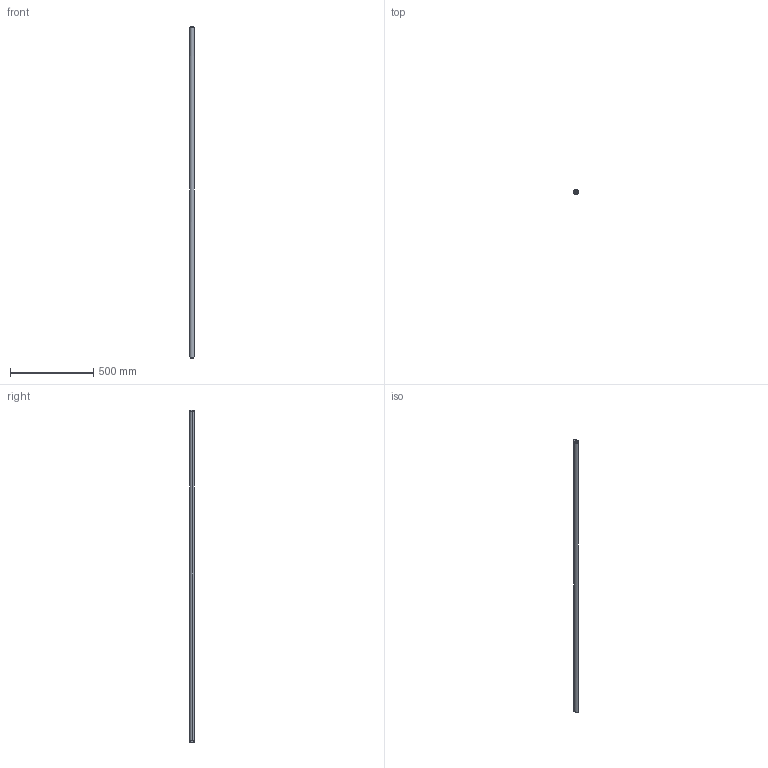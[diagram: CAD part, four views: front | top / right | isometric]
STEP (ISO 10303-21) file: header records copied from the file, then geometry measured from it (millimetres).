
FILE_DESCRIPTION (( 'STEP AP214' ), '1' );
FILE_NAME ('PL01-28x2000!1920.STEP', '2009-02-26T08:08:42', ( 'mittelholzer' ), ( '' ), 'SwSTEP 2.0', 'SolidWorks 2005037', '' );
FILE_SCHEMA (( 'AUTOMOTIVE_DESIGN' ));
Length unit declared in the file: millimetre
Products named in the file (1): PL01-28x2000!1920
Bounding box: 28 x 28 x 2000 mm (x, y, z)
Volume: 1228104.4 mm3; surface area: 177886 mm2
Topology: 1 solids, 1 shells, 41 faces, 104 edges, 68 vertices
Faces by surface type: plane 15, cylinder 10, cone 8, torus 8
Entity records: 1353 total; most frequent: CARTESIAN_POINT 374, ORIENTED_EDGE 208, DIRECTION 192, EDGE_CURVE 104, AXIS2_PLACEMENT_3D 78, VERTEX_POINT 68, EDGE_LOOP 44, FACE_OUTER_BOUND 41
